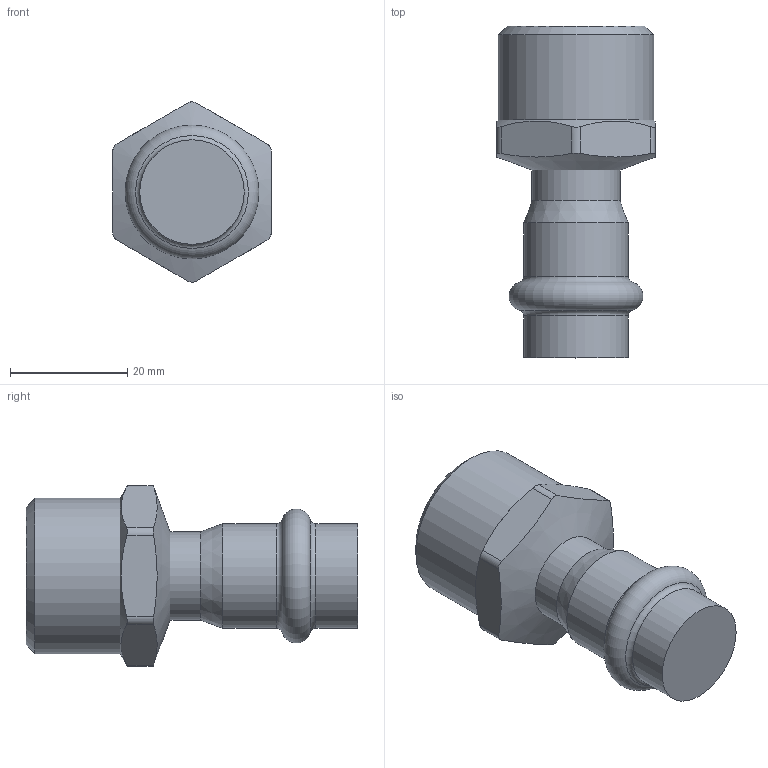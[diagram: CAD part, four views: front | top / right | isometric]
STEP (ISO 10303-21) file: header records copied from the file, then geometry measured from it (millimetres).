
FILE_DESCRIPTION(('STEP AP203'), '1');
FILE_NAME('VTi.901.I.001505', '', ('UNSPECIFIED'), ('UNSPECIFIED'), 'C3D Converter', 'C3D Toolkit', '');
FILE_SCHEMA(('CONFIG_CONTROL_DESIGN'));
Length unit declared in the file: millimetre
Bounding box: 27 x 56.5 x 30.71 mm (x, y, z)
Volume: 21488.8 mm3; surface area: 5082.9 mm2
Topology: 1 solids, 1 shells, 25 faces, 60 edges, 37 vertices
Faces by surface type: cylinder 10, plane 8, cone 4, torus 3
Full cylindrical faces by diameter (mm): 15 x1, 17.8 x2, 26.441 x1
Entity records: 1532 total; most frequent: CARTESIAN_POINT 998, ORIENTED_EDGE 98, DIRECTION 86, EDGE_CURVE 49, AXIS2_PLACEMENT_3D 37, VERTEX_POINT 37, EDGE_LOOP 36, B_SPLINE_CURVE_WITH_KNOTS 26
